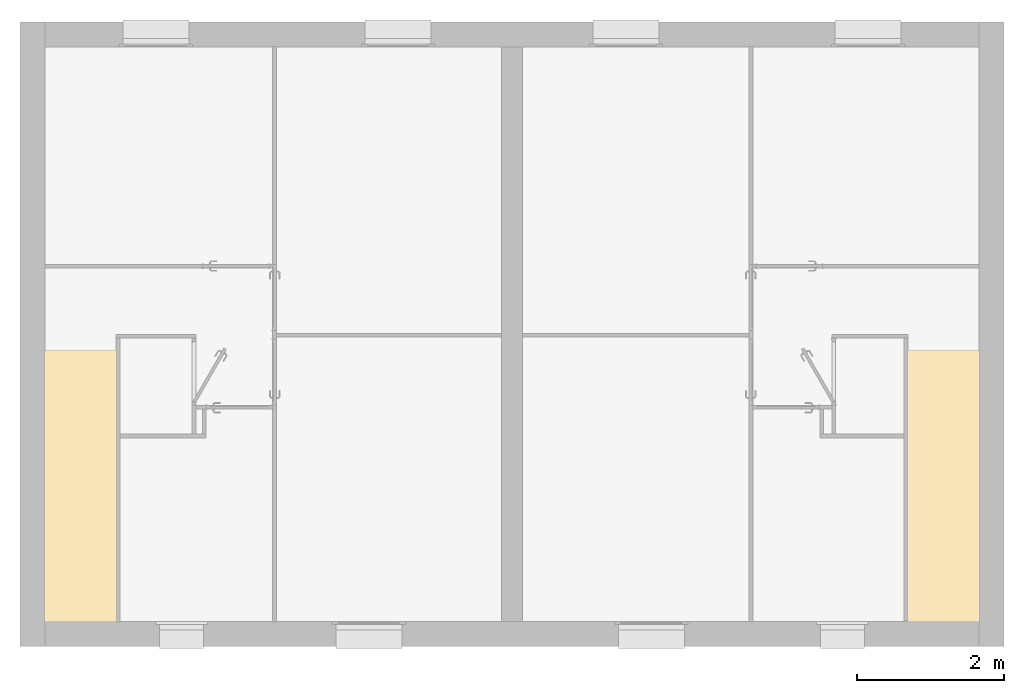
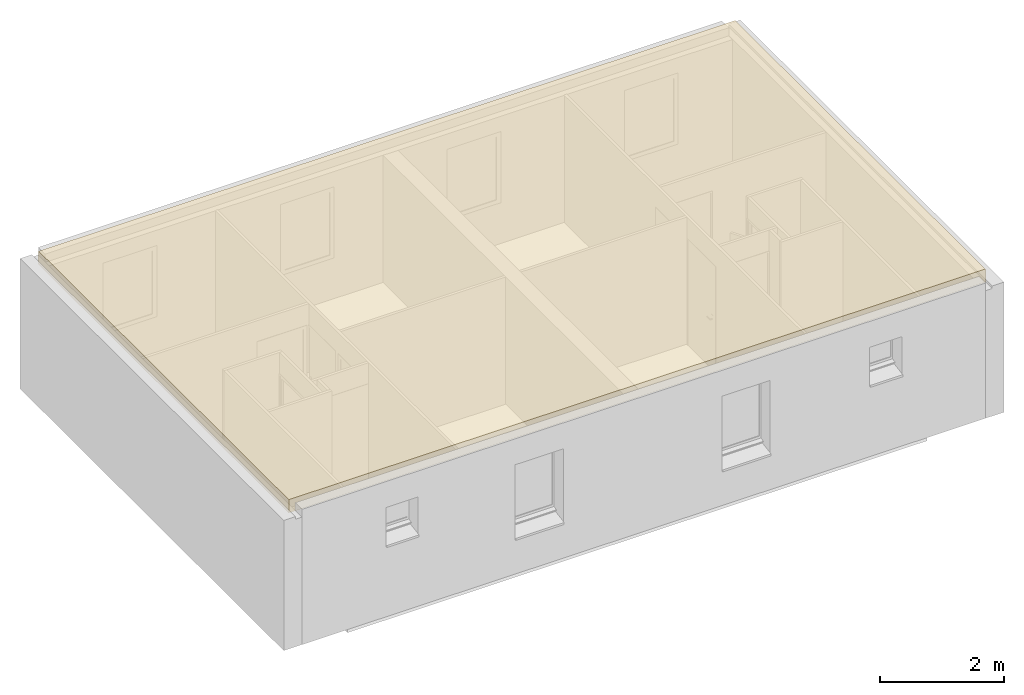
# One storey, part 13 of 13: 1 covering.
"""IFC2X3 building model written with IfcOpenShell, lengths in metres."""

from ifc_helpers import new_model, entity, si_unit, converted_unit, derived_unit, direction, frame, frame_2d, origin, place, context, subcontext, project, spatial, rectangle, extrude, material, layer, layer_set, layer_usage, element, save


model = new_model("IFC2X3")

# Units and contexts
model_context = context("Model", 3, precision=1e-05, world=origin(), true_north=direction((6.12303176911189e-17, 1.0)))
body_context = subcontext(model_context, "Body", "Model", "MODEL_VIEW")
ifc_project = project(units=[si_unit("LENGTHUNIT", "METRE"), si_unit("AREAUNIT", "SQUARE_METRE"), si_unit("VOLUMEUNIT", "CUBIC_METRE"), converted_unit("PLANEANGLEUNIT", "DEGREE", entity("IfcRatioMeasure", 0.0174532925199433), si_unit("PLANEANGLEUNIT", "RADIAN"), dimensions=[0, 0, 0, 0, 0, 0, 0]), si_unit("MASSUNIT", "GRAM", prefix="KILO"), si_unit("TIMEUNIT", "SECOND"), si_unit("FREQUENCYUNIT", "HERTZ"), si_unit("THERMODYNAMICTEMPERATUREUNIT", "DEGREE_CELSIUS"), derived_unit("THERMALTRANSMITTANCEUNIT", [(si_unit("MASSUNIT", "GRAM", prefix="KILO"), 1), (si_unit("THERMODYNAMICTEMPERATUREUNIT", "KELVIN"), -1), (si_unit("TIMEUNIT", "SECOND"), -3)]), derived_unit("VOLUMETRICFLOWRATEUNIT", [(si_unit("LENGTHUNIT", "METRE"), 3), (si_unit("TIMEUNIT", "SECOND"), -1)]), si_unit("ELECTRICCURRENTUNIT", "AMPERE"), si_unit("ELECTRICVOLTAGEUNIT", "VOLT"), si_unit("POWERUNIT", "WATT"), si_unit("FORCEUNIT", "NEWTON", prefix="KILO"), si_unit("ILLUMINANCEUNIT", "LUX"), si_unit("LUMINOUSFLUXUNIT", "LUMEN"), si_unit("LUMINOUSINTENSITYUNIT", "CANDELA"), derived_unit("USERDEFINED", [(si_unit("MASSUNIT", "GRAM", prefix="KILO"), -1), (si_unit("LENGTHUNIT", "METRE"), -2), (si_unit("TIMEUNIT", "SECOND"), 3), (si_unit("LUMINOUSFLUXUNIT", "LUMEN"), 1)]), derived_unit("LINEARVELOCITYUNIT", [(si_unit("LENGTHUNIT", "METRE"), 1), (si_unit("TIMEUNIT", "SECOND"), -1)]), si_unit("PRESSUREUNIT", "PASCAL"), derived_unit("USERDEFINED", [(si_unit("LENGTHUNIT", "METRE"), -2), (si_unit("MASSUNIT", "GRAM", prefix="KILO"), 1), (si_unit("TIMEUNIT", "SECOND"), -2)])], contexts=[model_context])

# Site, building, storey
site_placement = place(None, origin())
site = spatial("IfcSite", under=ifc_project, at=site_placement, Name="Surface", CompositionType="ELEMENT")
building_placement = place(site_placement, origin())
building = spatial("IfcBuilding", under=site, at=building_placement, CompositionType="ELEMENT")
storey_placement = place(building_placement, frame((0.0, 0.0, 2.74)))
storey = spatial("IfcBuildingStorey", under=building, at=storey_placement, Name="Plan étage", CompositionType="ELEMENT", Elevation=2.74)

# Covering
ifc_material_1 = material(Name="Maçonnerie - Isolant")
ifc_layer_1 = layer(ifc_material_1, 0.25)
ifc_material_2 = material(Name="Faux-plafond - Trame 600 x 600")
ifc_layer_2 = layer(ifc_material_2, 0.01)
ifc_layer_set = layer_set([ifc_layer_1, ifc_layer_2], Name="Plafond composé:Plafond avec isolation")
ifc_layer_usage = layer_usage(ifc_layer_set, "AXIS3", "NEGATIVE", 0.0)
covering_placement = place(storey_placement, origin())
element("IfcCovering", 1, at=covering_placement, inside=storey, material=ifc_layer_usage, Name="Plafond composé:Plafond avec isolation", ObjectType="Plafond composé:Plafond avec isolation", PredefinedType="CEILING", context=body_context, shape_type="SweptSolid", body=[
    extrude(rectangle(XDim=12.96, YDim=8.06000000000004, at=frame_2d((-1.33226762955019e-15, 0.0), x_axis=(1.0, 0.0))), frame((-4.93608881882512, 1.4342557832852, 2.5), z_axis=(0.0, 0.0, 1.0), x_axis=(-1.0, 0.0, 0.0)), (0.0, 0.0, 1.0), 0.26),
])

save(model, "model.ifc")
